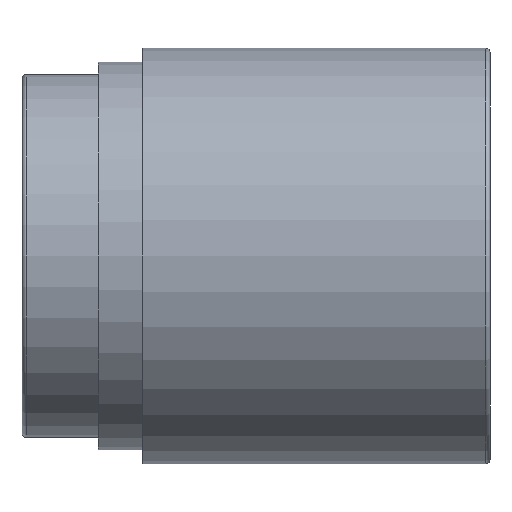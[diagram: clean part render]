
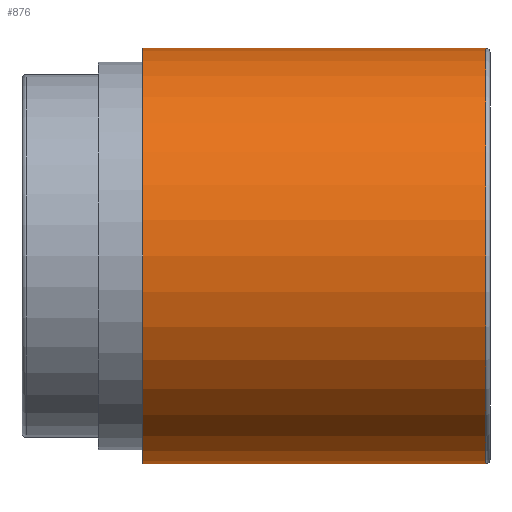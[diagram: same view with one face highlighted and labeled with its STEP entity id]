
A CAD part, left-side view. The second image highlights one B-rep face of the part: STEP entity #876.
In plain terms, the highlighted cylindrical face has radius 39.497 mm (diameter 78.994 mm), a partial arc.
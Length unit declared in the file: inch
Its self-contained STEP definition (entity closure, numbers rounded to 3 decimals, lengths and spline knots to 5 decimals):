
#6 = DIRECTION ( 'NONE',  ( 0., 0., 1. ) ) ;
#17 = DIRECTION ( 'NONE',  ( 0., 1., 0. ) ) ;
#90 = CARTESIAN_POINT ( 'NONE',  ( 0., 2.599, 0. ) ) ;
#106 = ORIENTED_EDGE ( 'NONE', *, *, #489, .F. ) ;
#148 = DIRECTION ( 'NONE',  ( 0., -1., 0. ) ) ;
#172 = VECTOR ( 'NONE', #934, 39.37008 ) ;
#190 = VECTOR ( 'NONE', #148, 39.37008 ) ;
#213 = FACE_OUTER_BOUND ( 'NONE', #228, .T. ) ;
#228 = EDGE_LOOP ( 'NONE', ( #293, #106, #928, #738 ) ) ;
#293 = ORIENTED_EDGE ( 'NONE', *, *, #666, .F. ) ;
#308 = VERTEX_POINT ( 'NONE', #480 ) ;
#311 = DIRECTION ( 'NONE',  ( 0., -1., 0. ) ) ;
#361 = CIRCLE ( 'NONE', #547, 1.555 ) ;
#437 = CIRCLE ( 'NONE', #588, 1.555 ) ;
#480 = CARTESIAN_POINT ( 'NONE',  ( 0., 0.03, 1.555 ) ) ;
#489 = EDGE_CURVE ( 'NONE', #690, #847, #361, .T. ) ;
#498 = DIRECTION ( 'NONE',  ( 0., 0., 1. ) ) ;
#501 = CARTESIAN_POINT ( 'NONE',  ( 0., 2.599, -1.555 ) ) ;
#547 = AXIS2_PLACEMENT_3D ( 'NONE', #90, #569, #6 ) ;
#561 = CARTESIAN_POINT ( 'NONE',  ( 0., 2.599, 1.555 ) ) ;
#569 = DIRECTION ( 'NONE',  ( 0., 1., 0. ) ) ;
#586 = CARTESIAN_POINT ( 'NONE',  ( 0., 0.03, 0. ) ) ;
#588 = AXIS2_PLACEMENT_3D ( 'NONE', #586, #17, #498 ) ;
#606 = LINE ( 'NONE', #931, #172 ) ;
#626 = AXIS2_PLACEMENT_3D ( 'NONE', #810, #311, #1071 ) ;
#630 = CARTESIAN_POINT ( 'NONE',  ( 0., 0.03, -1.555 ) ) ;
#631 = CYLINDRICAL_SURFACE ( 'NONE', #626, 1.555 ) ;
#666 = EDGE_CURVE ( 'NONE', #847, #308, #606, .T. ) ;
#690 = VERTEX_POINT ( 'NONE', #501 ) ;
#706 = EDGE_CURVE ( 'NONE', #979, #308, #437, .T. ) ;
#713 = CARTESIAN_POINT ( 'NONE',  ( 0., 2.599, -1.555 ) ) ;
#738 = ORIENTED_EDGE ( 'NONE', *, *, #706, .T. ) ;
#810 = CARTESIAN_POINT ( 'NONE',  ( 0., 2.599, 0. ) ) ;
#847 = VERTEX_POINT ( 'NONE', #561 ) ;
#876 = ADVANCED_FACE ( 'NONE', ( #213 ), #631, .T. ) ;
#879 = LINE ( 'NONE', #713, #190 ) ;
#899 = EDGE_CURVE ( 'NONE', #690, #979, #879, .T. ) ;
#928 = ORIENTED_EDGE ( 'NONE', *, *, #899, .T. ) ;
#931 = CARTESIAN_POINT ( 'NONE',  ( 0., 2.599, 1.555 ) ) ;
#934 = DIRECTION ( 'NONE',  ( 0., -1., 0. ) ) ;
#979 = VERTEX_POINT ( 'NONE', #630 ) ;
#1071 = DIRECTION ( 'NONE',  ( 0., 0., -1. ) ) ;
